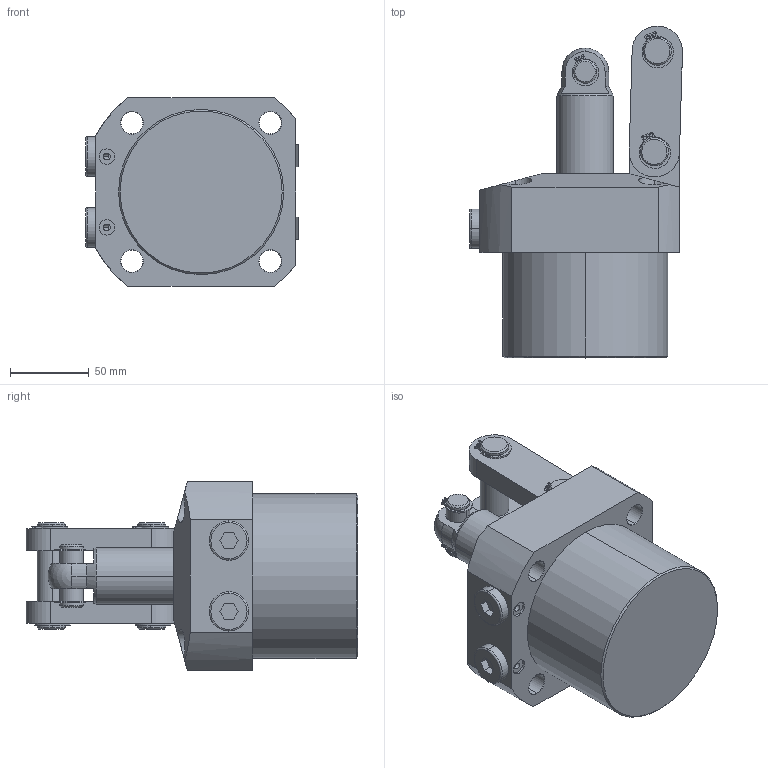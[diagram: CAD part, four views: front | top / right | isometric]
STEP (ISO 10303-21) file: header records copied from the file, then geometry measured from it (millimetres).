
FILE_DESCRIPTION (( 'STEP AP203' ), '1' );
FILE_NAME ('4171 821 C.STEP', '2017-11-29T06:55:41', ( '' ), ( '' ), 'SwSTEP 2.0', 'SolidWorks 2015', '' );
FILE_SCHEMA (( 'CONFIG_CONTROL_DESIGN' ));
Length unit declared in the file: millimetre
Products named in the file (8): PR; 4171 821 C; PIN 1; PIN 2; LINK; (normal) external_is_IS 3075 NE- 15; (normal) external_is_IS 3075 NE- 18; BODY_4171 821 C
Assembly tree (13 placements, depth 2):
  4171 821 C
    BODY_4171 821 C
    PR
    PIN 1
    PIN 2  x2
    LINK  x2
    (normal) external_is_IS 3075 NE- 15  x2
    (normal) external_is_IS 3075 NE- 18  x4
Bounding box: 135.37 x 210.97 x 120 mm (x, y, z)
Volume: 1401171.5 mm3; surface area: 131952 mm2
Topology: 13 solids, 13 shells, 344 faces, 848 edges, 547 vertices
Faces by surface type: cylinder 173, plane 125, cone 40, torus 4, sphere 2
Entity records: 7774 total; most frequent: CARTESIAN_POINT 1347, DIRECTION 1212, ORIENTED_EDGE 1078, EDGE_CURVE 539, AXIS2_PLACEMENT_3D 471, VERTEX_POINT 346, VECTOR 270, LINE 270
